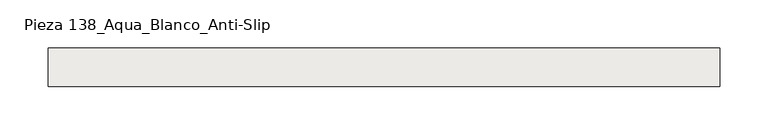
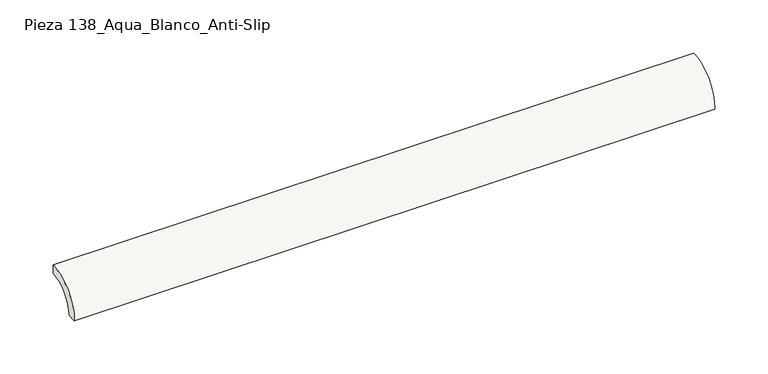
"""IFC4 building model written with IfcOpenShell, lengths in millimetres: slab geometry, ROSA GRES_138 : Pieza 138_Aqua_Blanco_Anti-Slip."""

from ifc_helpers import new_model, si_unit, point, frame, frame_2d, origin, origin_2d, place, context, project, spatial, polyline, circle_curve, trimmed, segment, composite_curve, outline, extrude, source, transform, mapped, element, save


def pieza_138_aqua_blanco_anti_slip_60cc964f(model_context):
    return source(origin(), model_context, "Body", "SweptSolid", [
        extrude(outline(composite_curve([segment(polyline([(0.0, 40.0), (0.0, 30.0265886)]), True, "CONTINUOUS"), segment(trimmed(circle_curve(frame_2d((-0.0044453, 0.0044453)), 30.0221435), [point((0.0, 30.0265886))], [point((-30.0265886, 0.0))], True, "CARTESIAN"), True, "CONTINUOUS"), segment(polyline([(-30.0265886, 0.0), (-40.0, 0.0)]), True, "CONTINUOUS"), segment(trimmed(circle_curve(origin_2d(), 40.0), [point((-40.0, 0.0))], [point((0.0, 40.0))], False, "CARTESIAN"), True, "CONTINUOUS")], self_intersect=False)), frame((0.0, 0.0, 0.0), z_axis=(1.0, 0.0, 0.0), x_axis=(0.0, 1.0, 0.0)), (0.0, 0.0, 1.0), 695.5316668),
    ])


if __name__ == "__main__":
    model = new_model("IFC4")
    model_context = context("Model", 3, world=origin())
    ifc_project = project(units=[si_unit("LENGTHUNIT", "METRE", prefix="MILLI")], contexts=[model_context])
    site = spatial("IfcSite", under=ifc_project)
    building = spatial("IfcBuilding", under=site)
    placement = place(None, origin())
    pieza_138_aqua_blanco_anti_slip_shape = pieza_138_aqua_blanco_anti_slip_60cc964f(model_context)
    element("IfcSlab", 1, ObjectType="ROSA GRES_138 : Pieza 138_Aqua_Blanco_Anti-Slip", at=placement, inside=building, context=model_context, shape_type="MappedRepresentation", body=[
        mapped(pieza_138_aqua_blanco_anti_slip_shape, transform((0.0, 0.0, 0.0), x_axis=(1.0, 0.0, 0.0), y_axis=(0.0, 1.0, 0.0), z_axis=(0.0, 0.0, 1.0))),
    ])
    save(model, "model.ifc")
